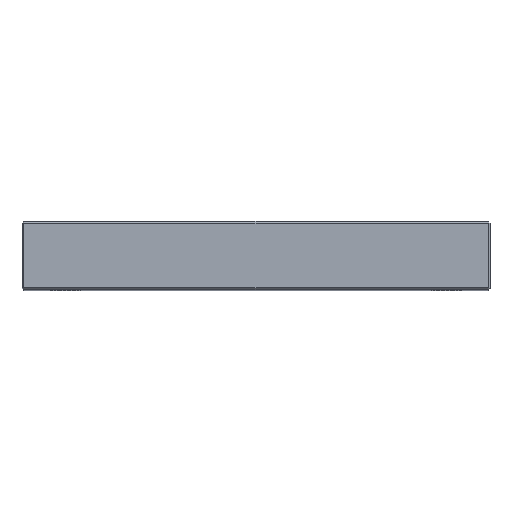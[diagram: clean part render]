
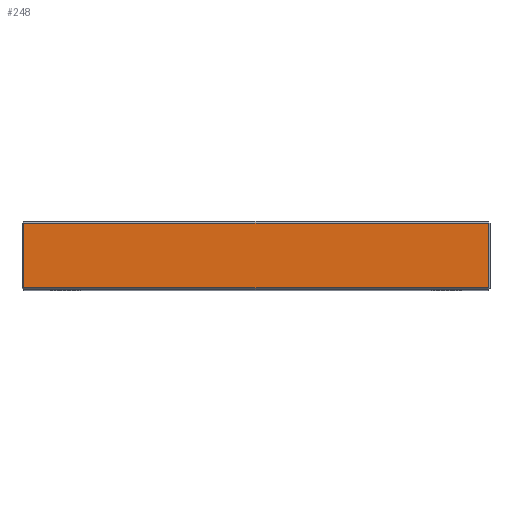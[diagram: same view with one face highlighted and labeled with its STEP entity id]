
A CAD part, top view. The second image highlights one B-rep face of the part: STEP entity #248.
In plain terms, the highlighted planar face has unit normal (0, 0, 1).
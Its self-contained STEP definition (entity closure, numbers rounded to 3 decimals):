
#44 = CARTESIAN_POINT ( 'NONE',  ( 123., 1., 148. ) ) ;
#141 = AXIS2_PLACEMENT_3D ( 'NONE', #1669, #1407, #1410 ) ;
#248 = ADVANCED_FACE ( 'NONE', ( #1007 ), #1610, .F. ) ;
#283 = CARTESIAN_POINT ( 'NONE',  ( -122., 35., 148. ) ) ;
#303 = ORIENTED_EDGE ( 'NONE', *, *, #1767, .T. ) ;
#415 = VERTEX_POINT ( 'NONE', #2102 ) ;
#588 = VERTEX_POINT ( 'NONE', #1564 ) ;
#664 = VECTOR ( 'NONE', #1822, 1000. ) ;
#724 = VECTOR ( 'NONE', #1133, 1000. ) ;
#758 = LINE ( 'NONE', #1422, #724 ) ;
#759 = LINE ( 'NONE', #2170, #664 ) ;
#793 = LINE ( 'NONE', #44, #828 ) ;
#828 = VECTOR ( 'NONE', #903, 1000. ) ;
#903 = DIRECTION ( 'NONE',  ( 1., 0., 0. ) ) ;
#915 = LINE ( 'NONE', #1996, #1074 ) ;
#982 = CARTESIAN_POINT ( 'NONE',  ( 122., 1., 148. ) ) ;
#1007 = FACE_OUTER_BOUND ( 'NONE', #2265, .T. ) ;
#1043 = VERTEX_POINT ( 'NONE', #283 ) ;
#1074 = VECTOR ( 'NONE', #1484, 1000. ) ;
#1084 = ORIENTED_EDGE ( 'NONE', *, *, #1795, .T. ) ;
#1133 = DIRECTION ( 'NONE',  ( 0., -1., 0. ) ) ;
#1407 = DIRECTION ( 'NONE',  ( 0., 0., -1. ) ) ;
#1410 = DIRECTION ( 'NONE',  ( -1., 0., 0. ) ) ;
#1422 = CARTESIAN_POINT ( 'NONE',  ( -122., 36., 148. ) ) ;
#1484 = DIRECTION ( 'NONE',  ( -1., 0., 0. ) ) ;
#1562 = ORIENTED_EDGE ( 'NONE', *, *, #1801, .T. ) ;
#1564 = CARTESIAN_POINT ( 'NONE',  ( -122., 1., 148. ) ) ;
#1610 = PLANE ( 'NONE',  #141 ) ;
#1669 = CARTESIAN_POINT ( 'NONE',  ( 123., 36., 148. ) ) ;
#1767 = EDGE_CURVE ( 'NONE', #415, #1043, #915, .T. ) ;
#1793 = EDGE_CURVE ( 'NONE', #1043, #588, #758, .T. ) ;
#1795 = EDGE_CURVE ( 'NONE', #588, #2298, #793, .T. ) ;
#1801 = EDGE_CURVE ( 'NONE', #2298, #415, #759, .T. ) ;
#1822 = DIRECTION ( 'NONE',  ( 0., 1., 0. ) ) ;
#1996 = CARTESIAN_POINT ( 'NONE',  ( -123., 35., 148. ) ) ;
#2028 = ORIENTED_EDGE ( 'NONE', *, *, #1793, .T. ) ;
#2102 = CARTESIAN_POINT ( 'NONE',  ( 122., 35., 148. ) ) ;
#2170 = CARTESIAN_POINT ( 'NONE',  ( 122., 36., 148. ) ) ;
#2265 = EDGE_LOOP ( 'NONE', ( #303, #2028, #1084, #1562 ) ) ;
#2298 = VERTEX_POINT ( 'NONE', #982 ) ;
